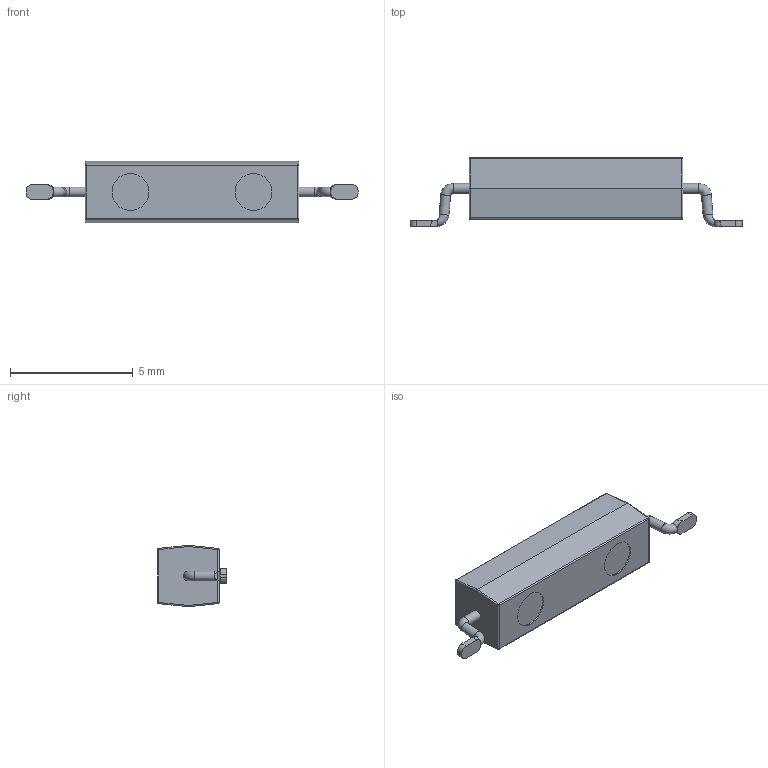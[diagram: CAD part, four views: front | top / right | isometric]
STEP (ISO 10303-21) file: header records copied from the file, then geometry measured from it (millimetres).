
FILE_DESCRIPTION (( 'STEP AP214' ), '1' );
FILE_NAME ('MKA-07101MS MKA-07101M1S.STEP', '2026-01-22T05:27:41', ( '' ), ( '' ), 'SwSTEP 2.0', 'SolidWorks 2021', '' );
FILE_SCHEMA (( 'AUTOMOTIVE_DESIGN' ));
Length unit declared in the file: millimetre
Products named in the file (5): MKA-07101MS  MKA-07101M1S; 扻錆趑邋謤鍙 07101; S Êîíòàêò äåòàëü 07101_S ‚ë¢®¤ 10110; 0 Êîíòàêò äåòàëü 07101_10110; 砑僔蠂獥07101M
Assembly tree (6 placements, depth 2):
  MKA-07101MS  MKA-07101M1S
    0 Êîíòàêò äåòàëü 07101_10110  x2
    砑僔蠂獥07101M
    扻錆趑邋謤鍙 07101
    S Êîíòàêò äåòàëü 07101_S ‚ë¢®¤ 10110  x2
Bounding box: 13.5 x 2.8 x 2.5 mm (x, y, z)
Volume: 61.6 mm3; surface area: 180.4 mm2
Topology: 6 solids, 6 shells, 136 faces, 298 edges, 166 vertices
Faces by surface type: plane 54, cylinder 48, bspline 22, sphere 8, torus 4
Full cylindrical faces by diameter (mm): 0.397 x2, 0.4 x8, 1.25 x1, 1.5 x2, 1.745 x1
Entity records: 3120 total; most frequent: CARTESIAN_POINT 1164, DIRECTION 355, ORIENTED_EDGE 338, EDGE_CURVE 169, AXIS2_PLACEMENT_3D 143, EDGE_LOOP 108, FACE_OUTER_BOUND 106, VERTEX_POINT 103
